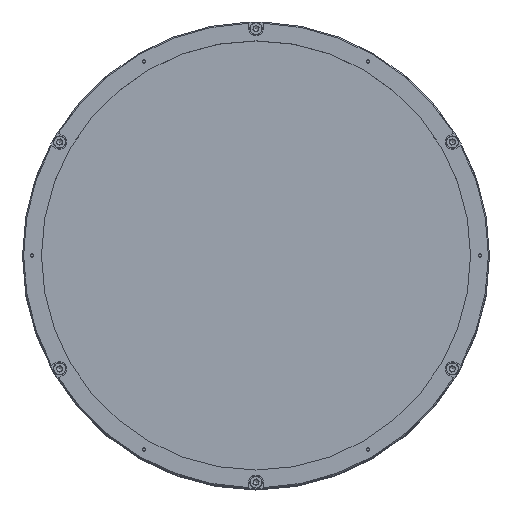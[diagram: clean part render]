
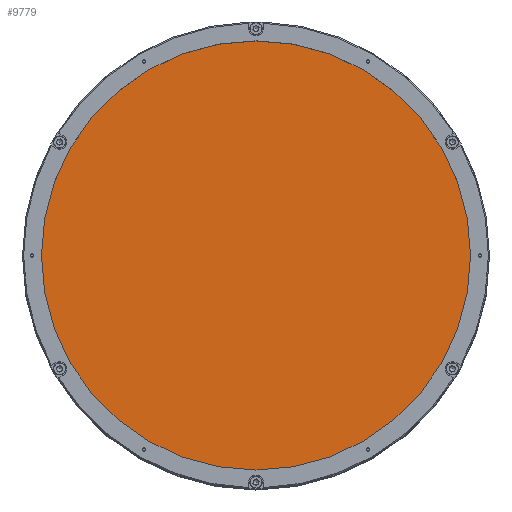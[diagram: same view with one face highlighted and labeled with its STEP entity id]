
A CAD part, top view. The second image highlights one B-rep face of the part: STEP entity #9779.
In plain terms, the highlighted planar face has unit normal (0, 0, 1).
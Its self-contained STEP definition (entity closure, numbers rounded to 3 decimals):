
#154 = VERTEX_POINT ( 'NONE', #17733 ) ;
#5290 = AXIS2_PLACEMENT_3D ( 'NONE', #5544, #17341, #7222 ) ;
#5544 = CARTESIAN_POINT ( 'NONE',  ( 0., 0., 400.916 ) ) ;
#7222 = DIRECTION ( 'NONE',  ( 0.5, -0.866, 0. ) ) ;
#8995 = ORIENTED_EDGE ( 'NONE', *, *, #15693, .F. ) ;
#9259 = DIRECTION ( 'NONE',  ( -1., 0., 0. ) ) ;
#9779 = ADVANCED_FACE ( 'NONE', ( #16686 ), #14275, .F. ) ;
#12583 = CARTESIAN_POINT ( 'NONE',  ( 0., 0., 400.916 ) ) ;
#13242 = CIRCLE ( 'NONE', #5290, 96.5 ) ;
#14275 = PLANE ( 'NONE',  #17170 ) ;
#15693 = EDGE_CURVE ( 'NONE', #154, #154, #13242, .T. ) ;
#16686 = FACE_OUTER_BOUND ( 'NONE', #18962, .T. ) ;
#17170 = AXIS2_PLACEMENT_3D ( 'NONE', #12583, #19455, #9259 ) ;
#17341 = DIRECTION ( 'NONE',  ( 0., 0., -1. ) ) ;
#17733 = CARTESIAN_POINT ( 'NONE',  ( 48.25, -83.571, 400.916 ) ) ;
#18962 = EDGE_LOOP ( 'NONE', ( #8995 ) ) ;
#19455 = DIRECTION ( 'NONE',  ( 0., 0., -1. ) ) ;
